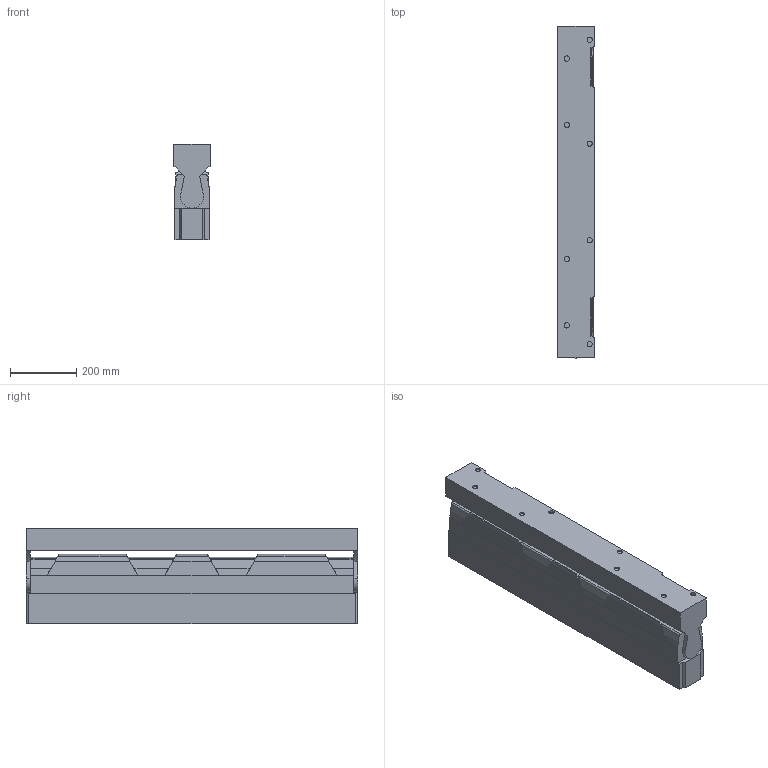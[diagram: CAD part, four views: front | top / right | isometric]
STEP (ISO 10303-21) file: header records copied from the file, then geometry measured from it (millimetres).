
FILE_DESCRIPTION((''),'2;1');
FILE_NAME('GLP-21220_ASM','2023-04-20T10:50:03',('Michael.Spatz'),(''),'CREO PARAMETRIC BY PTC INC, 2022014','CREO PARAMETRIC BY PTC INC, 2022014','');
FILE_SCHEMA(('AUTOMOTIVE_DESIGN { 1 0 10303 214 1 1 1 1 }'));
Length unit declared in the file: millimetre
Products named in the file (3): GLP-14068; GLP-14067; GLP-21220_ASM
Assembly tree (2 placements, depth 2):
  GLP-21220_ASM
    GLP-14068
    GLP-14067
Bounding box: 110 x 1000 x 288.88 mm (x, y, z)
Volume: 27941051.4 mm3; surface area: 1040212.9 mm2
Topology: 2 solids, 2 shells, 142 faces, 387 edges, 258 vertices
Faces by surface type: plane 82, cylinder 50, extrusion 10
Entity records: 5984 total; most frequent: CARTESIAN_POINT 1156, DIRECTION 775, ORIENTED_EDGE 774, EDGE_CURVE 387, VECTOR 304, LINE 294, VERTEX_POINT 258, AXIS2_PLACEMENT_3D 231
